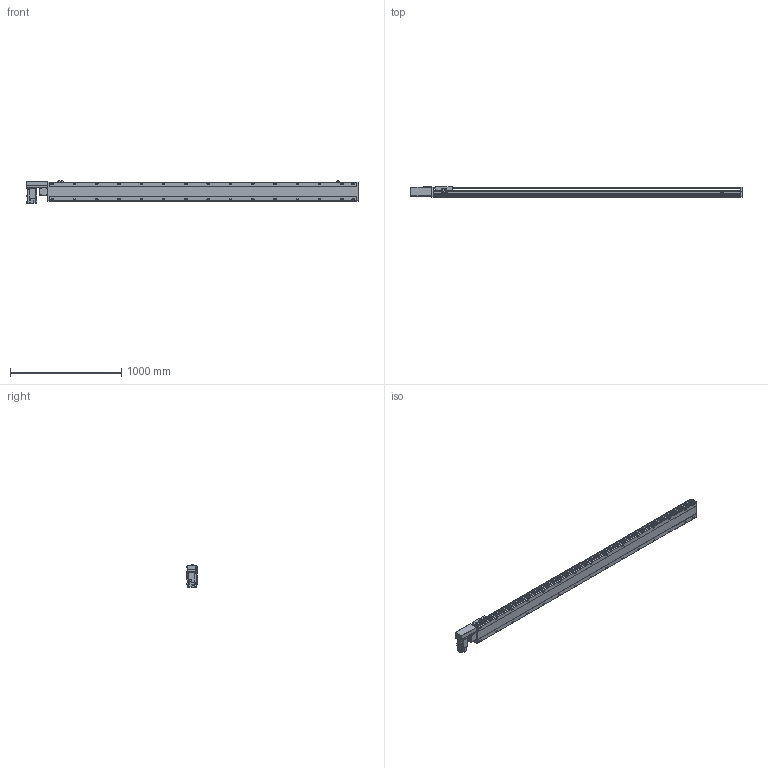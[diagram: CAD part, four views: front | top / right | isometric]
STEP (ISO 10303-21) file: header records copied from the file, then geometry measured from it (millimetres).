
FILE_DESCRIPTION( ( 'STEP AP214' ), '1' );
FILE_NAME( 'x:/temp/worker_4/temp/exporttempdir_2248_295_Fa1uO/format_0/PBS170-P40-S2500-R-T75-C1-N(0).stp', '2022-06-07T07:32:34', ( 'License CC BY-ND 4.0' ), ( 'CADENAS' ), ' ', 'PARTsolutions', ' ' );
FILE_SCHEMA( ( 'AUTOMOTIVE_DESIGN { 1 0 10303 214 1 1 1 1 }' ) );
Length unit declared in the file: millimetre
Products named in the file (7): PBS170-P40-S2500-R-T75-C1-N(0); _PBS170-S2500()_body; _PBS170T-R_motors; _T75-p1; _PBS170_sliser; _PBS170_plant; _PBS170_sensor
Assembly tree (8 placements, depth 2):
  PBS170-P40-S2500-R-T75-C1-N(0)
    _PBS170-S2500()_body
    _PBS170T-R_motors
    _T75-p1
    _PBS170_sliser
    _PBS170_plant
    _PBS170_sensor  x3
Bounding box: 2978 x 97 x 205.3 mm (x, y, z)
Volume: 21677293.2 mm3; surface area: 2730093.3 mm2
Topology: 8 solids, 8 shells, 1194 faces, 3155 edges, 2056 vertices
Faces by surface type: plane 729, cylinder 395, cone 60, sphere 8, torus 2
Full cylindrical faces by diameter (mm): 3.242 x4, 4 x2, 4.4 x4, 4.5 x6, 4.917 x4, 6 x9, 6.647 x38, 7 x2, 7.5 x4, 8 x8, 8.5 x30, 10 x4, 10.5 x30, 11 x2, 30 x2, 40 x1, 70 x1
Entity records: 44234 total; most frequent: CARTESIAN_POINT 7397, DIRECTION 5790, ORIENTED_EDGE 5448, EDGE_CURVE 2724, AXIS2_PLACEMENT_3D 2047, VERTEX_POINT 1898, LINE 1696, VECTOR 1696
